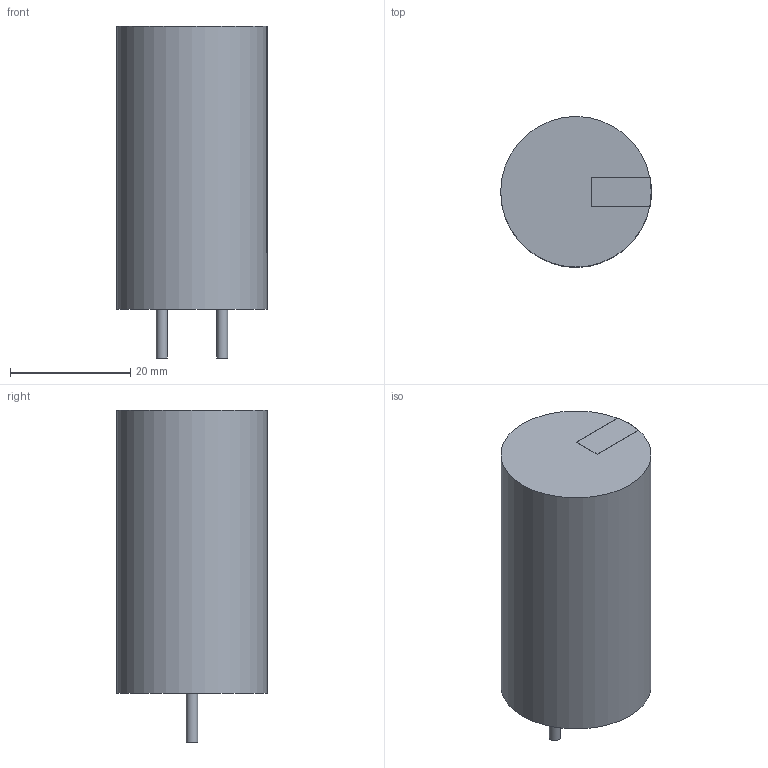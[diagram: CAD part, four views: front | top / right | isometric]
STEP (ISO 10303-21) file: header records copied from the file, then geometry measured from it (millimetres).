
FILE_DESCRIPTION(('STEP AP214'),'1');
FILE_NAME('CAP_A45_NCH','2024-02-24T07:25:34',(''),(''),'','','');
FILE_SCHEMA(('AUTOMOTIVE_DESIGN'));
Length unit declared in the file: millimetre
Products named in the file (1): product
Bounding box: 25 x 24.99 x 55.11 mm (x, y, z)
Volume: 23104 mm3; surface area: 5244.7 mm2
Topology: 4 solids, 4 shells, 17 faces, 27 edges, 18 vertices
Faces by surface type: plane 12, cylinder 5
Full cylindrical faces by diameter (mm): 1.854 x2, 24.994 x1
Entity records: 552 total; most frequent: DIRECTION 76, CARTESIAN_POINT 48, ORIENTED_EDGE 48, AXIS2_PLACEMENT_3D 31, EDGE_CURVE 24, EDGE_LOOP 20, VERTEX_POINT 18, PRESENTATION_STYLE_ASSIGNMENT 17
